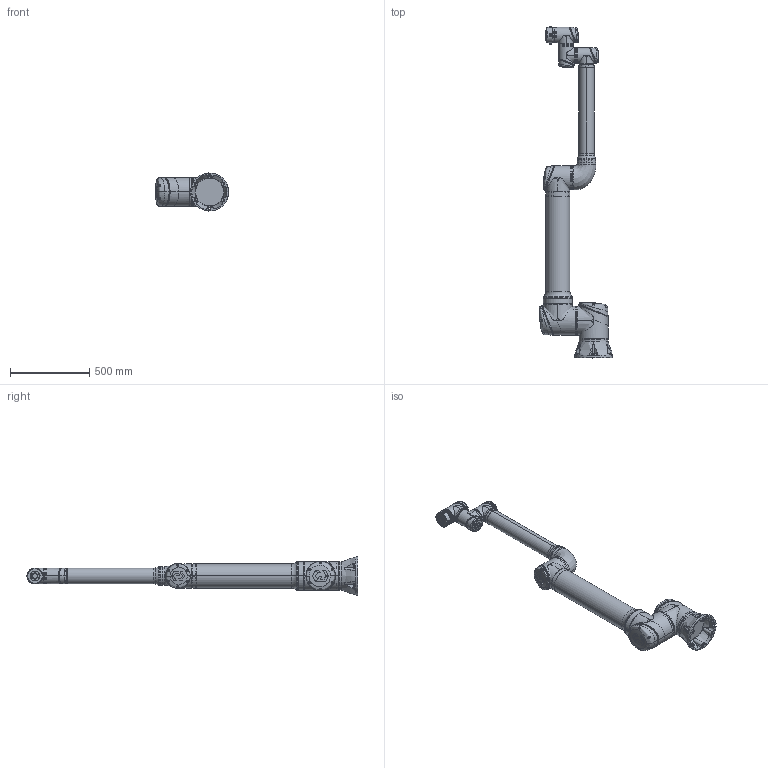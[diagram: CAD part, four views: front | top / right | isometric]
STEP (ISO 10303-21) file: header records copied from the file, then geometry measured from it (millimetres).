
FILE_DESCRIPTION (( 'STEP AP203' ), '1' );
FILE_NAME ('CS_掛极CS620F_V1.1.STEP', '2025-03-31T03:39:27', ( '' ), ( '' ), 'SwSTEP 2.0', 'SolidWorks 2017', '' );
FILE_SCHEMA (( 'CONFIG_CONTROL_DESIGN' ));
Length unit declared in the file: millimetre
Products named in the file (8): CS620F-J1; CS620F-Base; CS620F-J5; CS620F-J2_Link1_J3; CS602F-Flange; CS_掛极CS620F_V1.1; CS620F-J6; CS620F-Link2A_Link2B_J4
Assembly tree (7 placements, depth 2):
  CS_掛极CS620F_V1.1
    CS620F-Base
    CS620F-J1
    CS620F-J2_Link1_J3
    CS620F-Link2A_Link2B_J4
    CS620F-J5
    CS620F-J6
    CS602F-Flange
Bounding box: 460.8 x 2092 x 239.8 mm (x, y, z)
Volume: 11913533.9 mm3; surface area: 1983075.3 mm2
Topology: 40 solids, 97 shells, 5806 faces, 13805 edges, 8205 vertices
Faces by surface type: bspline 2685, plane 1445, cylinder 1079, cone 350, torus 131, sphere 116
Entity records: 318190 total; most frequent: CARTESIAN_POINT 205237, ORIENTED_EDGE 27068, DIRECTION 18201, EDGE_CURVE 13548, VERTEX_POINT 8189, AXIS2_PLACEMENT_3D 7554, EDGE_LOOP 6154, ADVANCED_FACE 5806
